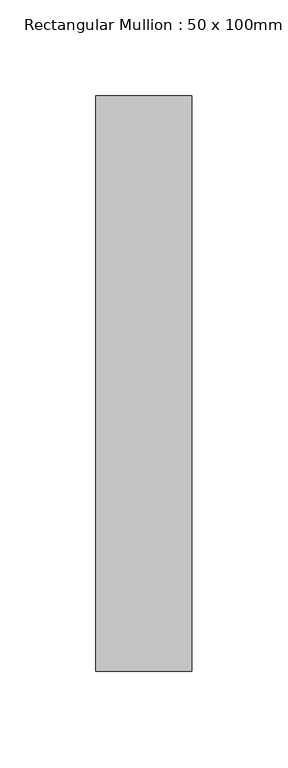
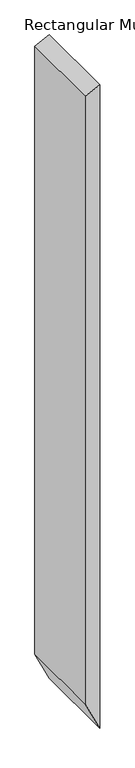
"""IFC4 building model written with IfcOpenShell, lengths in millimetres: member geometry, Rectangular Mullion : 50 x 100mm."""

from ifc_helpers import new_model, si_unit, frame, origin, place, context, project, spatial, polyline, outline, extrude, source, transform, mapped, element, save


def rectangular_mullion_50_x_100mm_ce1730a3(model_context):
    return source(origin(), model_context, "Body", "SweptSolid", [
        extrude(outline(polyline([(0.0, 0.0), (-23.6761752, -50.0), (-2239.4481522, -50.0), (-2345.0395318, 0.0), (0.0, 0.0)])), frame((0.0, -125.0, 0.0), z_axis=(0.0, 1.0, 0.0), x_axis=(0.0, 0.0, 1.0)), (0.0, 0.0, 1.0), 300.0),
    ])


if __name__ == "__main__":
    model = new_model("IFC4")
    model_context = context("Model", 3, world=origin())
    ifc_project = project(units=[si_unit("LENGTHUNIT", "METRE", prefix="MILLI")], contexts=[model_context])
    site = spatial("IfcSite", under=ifc_project)
    building = spatial("IfcBuilding", under=site)
    placement = place(None, origin())
    rectangular_mullion_50_x_100mm_shape = rectangular_mullion_50_x_100mm_ce1730a3(model_context)
    element("IfcMember", 1, ObjectType="Rectangular Mullion : 50 x 100mm", at=placement, inside=building, context=model_context, shape_type="MappedRepresentation", body=[
        mapped(rectangular_mullion_50_x_100mm_shape, transform((0.0, 0.0, 0.0), x_axis=(1.0, 0.0, 0.0), y_axis=(0.0, 1.0, 0.0), z_axis=(0.0, 0.0, 1.0))),
    ])
    save(model, "model.ifc")
